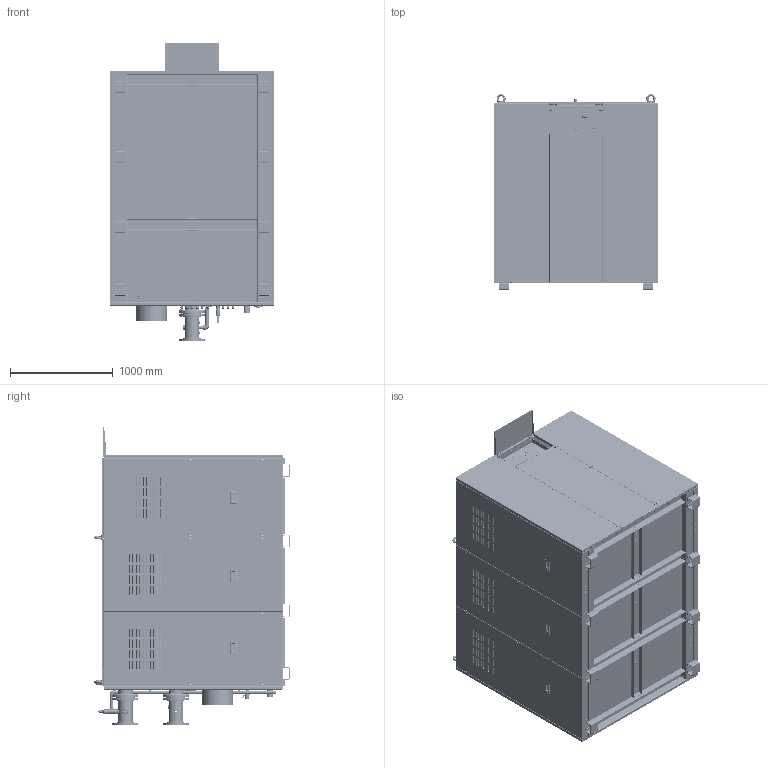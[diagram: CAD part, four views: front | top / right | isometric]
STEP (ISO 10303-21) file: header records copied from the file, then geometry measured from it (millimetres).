
FILE_DESCRIPTION (( 'STEP AP214' ), '1' );
FILE_NAME ('CBRP-SC3-V1.STEP', '2024-04-17T12:09:12', ( '' ), ( '' ), 'SwSTEP 2.0', 'SolidWorks 2020', '' );
FILE_SCHEMA (( 'AUTOMOTIVE_DESIGN' ));
Length unit declared in the file: millimetre
Products named in the file (106): CBRP-SC3-V1-62-02; CBRP-SC3-V1-14; CBRP-SC3-V1-31-06; CBRP-SC3-V1-12-01; CBRP-SC3-V1-62-04; CBRP-SC3-V1-31-09; CBRP-SC3-V1-11-10; CBRP-SC3-V1-31-07; CBRP-SC3-V1-14-01; CBRP-SC3-V1-11; CBRP-SC3-V1; CBRP-SC3-V1-31-02; CBRP-SC3-V1-O6-49; CBRP-SC3-V1-11-04; CBRP-SC3-V1-74-02; CBRP-SC3-V1-13; CBRP-SC3-V1-06-07; CBRP-SC3-V1-41; CBRP-SC3-V1-31-05; CBRP-SC3-V1-61-03; CBRP-SC3-V1-52; CBRP-SC3-V1-01-03; CBRP-SC3-V1-06-09; CBRP-SC3-V1-62-05; CBRP-SC3-V1-52-05; CBRP-SC3-V1-06-02; CBRP-SC3-V1-11-01; CBRP-SC3-V1-42; CBRP-SC3-V1-11-02; CBRP-SC3-V1-74-06; CBRP-SC3-V1-12; CBRP-SC3-V1-61-05; CBRP-SC3-V1-11-06; CBRP-SC3-V1-74-13; curved spring lock washer_din_Spring washer DIN 128 - A16; CBRP-SC3-V1-06-41; CBRP-SC3-V1-74-15; hex head structural bolt_din_DIN 7990 - M16 x 85-WN; CBRP-SC3-V1-02; CBRP-SC3-V1-74-16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
Assembly tree (191 placements, depth 5):
  CBRP-SC3-V1
    CBRP-SC3-V1-02
      CBRP-SC3-V1-05_pre mix 1200 KW
        CBRP-SC3-V1-52
          CBRP-SC3-V1-52-05
          CBRP-SC3-V1-52-07
          CBRP-SC3-V1-52-08  x2
          CBRP-SC3-V1-52-11
          CBRP-SC3-V1-52-13
        CBRP-SC3-V1-53
          CBRP-SC3-V1-53-12
          CBRP-SC3-V1-52-13
        CBRP-SC3-V1-57-01
        CBRP-SC3-V1-52-07
        CBRP-SC3-V1-52-08  x2
        CBRP-SC3-V1-54
          CBRP-SC3-V1-54-02_4
      CBRP-SC3-V1-03
        CBRP-SC3-V1-31
          CBRP-SC3-V1-31-02
          CBRP-SC3-V1-31-03
          CBRP-SC3-V1-31-04
          CBRP-SC3-V1-31-05
          CBRP-SC3-V1-31-06  x6
          CBRP-SC3-V1-31-07
          CBRP-SC3-V1-31-08  x3
          CBRP-SC3-V1-31-09  x2
          CBRP-SC3-V1-31-10
          CBRP-SC3-V1-31-12
          MirrorCBRP-SC3-V1-31-03
          CBRP-SC3-V1-31-13  x8
      CBRP-SC3-V1-04
        CBRP-SC3-V1-42
          CBRP-SC3-V1-42-10
        CBRP-SC3-V1-41
          CBRP-SC3-V1-41-02  x2
          CBRP-SC3-V1-41-01
      CBRP-SC3-V1-74_front plate U300
        CBRP-SC3-V1-74-02
        CBRP-SC3-V1-74-03
        CBRP-SC3-V1-74-04
        CBRP-SC3-V1-74-05  x4
        CBRP-SC3-V1-74-06  x4
        CBRP-SC3-V1-74-07
        CBRP-SC3-V1-74-11
        CBRP-SC3-V1-74-12
        CBRP-SC3-V1-74-13
        CBRP-SC3-V1-74-14  x2
        CBRP-SC3-V1-74-15  x2
        CBRP-SC3-V1-74-16
      CBRP-SC3-V1-75
        CBRP-SC3-V1-75-01
        CBRP-SC3-V1-75-02
        CBRP-SC3-V1-75-03  x2
    CBRP-SC3-V1-06
      CBRP-SC3-V1-62  x4
        CBRP-SC3-V1-62-01
        CBRP-SC3-V1-62-04
        CBRP-SC3-V1-62-02
        CBRP-SC3-V1-62-03
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Bounding box: 1601.13 x 1907 x 2910.76 mm (x, y, z)
Volume: 70881757.4 mm3; surface area: 67952176.4 mm2
Topology: 249 solids, 318 shells, 31656 faces, 85457 edges, 54617 vertices
Faces by surface type: plane 14646, bspline 7783, cylinder 7629, cone 964, torus 572, sphere 62
Entity records: 844325 total; most frequent: CARTESIAN_POINT 401628, ORIENTED_EDGE 99296, DIRECTION 58141, EDGE_CURVE 49787, VERTEX_POINT 31884, B_SPLINE_CURVE_WITH_KNOTS 24967, EDGE_LOOP 21257, AXIS2_PLACEMENT_3D 20333
